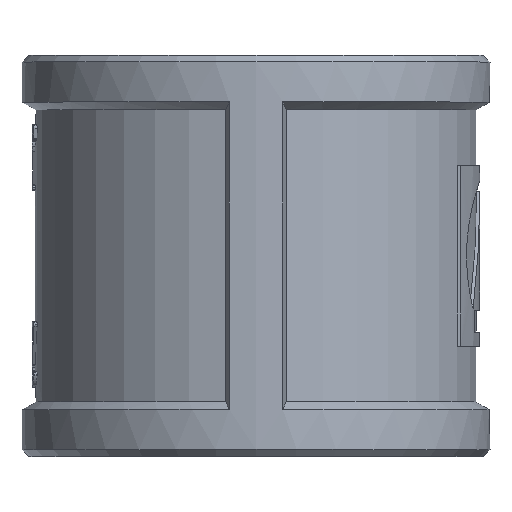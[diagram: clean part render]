
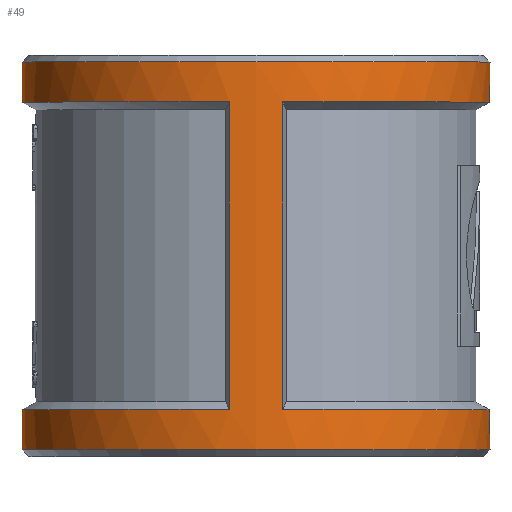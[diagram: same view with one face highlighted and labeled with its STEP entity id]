
A CAD part, top view. The second image highlights one B-rep face of the part: STEP entity #49.
In plain terms, the highlighted cylindrical face has radius 35 mm (diameter 70 mm), a full revolution.
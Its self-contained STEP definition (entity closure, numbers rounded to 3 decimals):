
#49=ADVANCED_FACE('',(#239,#241,#243,#245),#247,.T.);
#239=FACE_BOUND('',#240,.T.);
#240=EDGE_LOOP('',(#1214,#1215,#1216,#1217,#1218,#1219));
#241=FACE_OUTER_BOUND('',#242,.T.);
#242=EDGE_LOOP('',(#1220));
#243=FACE_OUTER_BOUND('',#244,.T.);
#244=EDGE_LOOP('',(#1221));
#245=FACE_BOUND('',#246,.T.);
#246=EDGE_LOOP('',(#1222,#1223,#1224,#1225));
#247=CYLINDRICAL_SURFACE('',#248,35.);
#248=AXIS2_PLACEMENT_3D('',#249,#250,#251);
#249=CARTESIAN_POINT('',(0.,-23.,0.));
#250=DIRECTION('',(0.,1.,0.));
#251=DIRECTION('',(-1.,0.,0.));
#1214=ORIENTED_EDGE('',*,*,#2252,.F.);
#1215=ORIENTED_EDGE('',*,*,#2253,.F.);
#1216=ORIENTED_EDGE('',*,*,#2254,.F.);
#1217=ORIENTED_EDGE('',*,*,#2255,.T.);
#1218=ORIENTED_EDGE('',*,*,#2256,.F.);
#1219=ORIENTED_EDGE('',*,*,#2257,.F.);
#1220=ORIENTED_EDGE('',*,*,#2250,.F.);
#1221=ORIENTED_EDGE('',*,*,#2251,.T.);
#1222=ORIENTED_EDGE('',*,*,#2258,.F.);
#1223=ORIENTED_EDGE('',*,*,#2259,.T.);
#1224=ORIENTED_EDGE('',*,*,#2260,.F.);
#1225=ORIENTED_EDGE('',*,*,#2261,.F.);
#2250=EDGE_CURVE('',#2659,#2659,#2660,.T.);
#2251=EDGE_CURVE('',#2661,#2661,#2662,.T.);
#2252=EDGE_CURVE('',#2663,#2664,#2665,.T.);
#2253=EDGE_CURVE('',#2666,#2663,#2667,.T.);
#2254=EDGE_CURVE('',#2668,#2666,#2669,.T.);
#2255=EDGE_CURVE('',#2668,#2670,#2671,.T.);
#2256=EDGE_CURVE('',#2672,#2670,#2673,.F.);
#2257=EDGE_CURVE('',#2664,#2672,#2674,.F.);
#2258=EDGE_CURVE('',#2675,#2676,#2677,.T.);
#2259=EDGE_CURVE('',#2675,#2678,#2679,.T.);
#2260=EDGE_CURVE('',#2680,#2678,#2681,.F.);
#2261=EDGE_CURVE('',#2676,#2680,#2682,.T.);
#2659=VERTEX_POINT('',#3352);
#2660=CIRCLE('',#3353,35.);
#2661=VERTEX_POINT('',#3357);
#2662=CIRCLE('',#3358,35.);
#2663=VERTEX_POINT('',#3362);
#2664=VERTEX_POINT('',#3363);
#2665=LINE('',#3364,#3365);
#2666=VERTEX_POINT('',#3367);
#2667=CIRCLE('',#3368,35.);
#2668=VERTEX_POINT('',#3372);
#2669=CIRCLE('',#3373,35.);
#2670=VERTEX_POINT('',#3377);
#2671=LINE('',#3378,#3379);
#2672=VERTEX_POINT('',#3381);
#2673=CIRCLE('',#3382,35.);
#2674=CIRCLE('',#3386,35.);
#2675=VERTEX_POINT('',#3390);
#2676=VERTEX_POINT('',#3391);
#2677=CIRCLE('',#3392,35.);
#2678=VERTEX_POINT('',#3396);
#2679=LINE('',#3397,#3398);
#2680=VERTEX_POINT('',#3400);
#2681=CIRCLE('',#3401,35.);
#2682=LINE('',#3405,#3406);
#3352=CARTESIAN_POINT('',(-35.,29.,0.));
#3353=AXIS2_PLACEMENT_3D('',#3354,#3355,#3356);
#3354=CARTESIAN_POINT('',(0.,29.,0.));
#3355=DIRECTION('',(0.,1.,0.));
#3356=DIRECTION('',(-1.,0.,0.));
#3357=CARTESIAN_POINT('',(-35.,-29.,0.));
#3358=AXIS2_PLACEMENT_3D('',#3359,#3360,#3361);
#3359=CARTESIAN_POINT('',(0.,-29.,0.));
#3360=DIRECTION('',(0.,1.,0.));
#3361=DIRECTION('',(-1.,0.,0.));
#3362=CARTESIAN_POINT('',(-4.,-23.,34.771));
#3363=CARTESIAN_POINT('',(-4.,23.,34.771));
#3364=CARTESIAN_POINT('',(-4.,-23.,34.771));
#3365=VECTOR('',#3366,1.);
#3366=DIRECTION('',(0.,1.,0.));
#3367=CARTESIAN_POINT('',(-35.,-23.,0.));
#3368=AXIS2_PLACEMENT_3D('',#3369,#3370,#3371);
#3369=CARTESIAN_POINT('',(0.,-23.,0.));
#3370=DIRECTION('',(0.,1.,0.));
#3371=DIRECTION('',(-1.,0.,0.));
#3372=CARTESIAN_POINT('',(-4.,-23.,-34.771));
#3373=AXIS2_PLACEMENT_3D('',#3374,#3375,#3376);
#3374=CARTESIAN_POINT('',(0.,-23.,0.));
#3375=DIRECTION('',(0.,1.,0.));
#3376=DIRECTION('',(-0.114,0.,-0.993));
#3377=CARTESIAN_POINT('',(-4.,23.,-34.771));
#3378=CARTESIAN_POINT('',(-4.,-23.,-34.771));
#3379=VECTOR('',#3380,1.);
#3380=DIRECTION('',(0.,1.,0.));
#3381=CARTESIAN_POINT('',(-35.,23.,0.));
#3382=AXIS2_PLACEMENT_3D('',#3383,#3384,#3385);
#3383=CARTESIAN_POINT('',(0.,23.,0.));
#3384=DIRECTION('',(0.,1.,0.));
#3385=DIRECTION('',(-0.114,0.,-0.993));
#3386=AXIS2_PLACEMENT_3D('',#3387,#3388,#3389);
#3387=CARTESIAN_POINT('',(0.,23.,0.));
#3388=DIRECTION('',(0.,1.,0.));
#3389=DIRECTION('',(-1.,0.,0.));
#3390=CARTESIAN_POINT('',(4.,-23.,34.771));
#3391=CARTESIAN_POINT('',(4.,-23.,-34.771));
#3392=AXIS2_PLACEMENT_3D('',#3393,#3394,#3395);
#3393=CARTESIAN_POINT('',(0.,-23.,0.));
#3394=DIRECTION('',(0.,1.,0.));
#3395=DIRECTION('',(0.114,0.,0.993));
#3396=CARTESIAN_POINT('',(4.,23.,34.771));
#3397=CARTESIAN_POINT('',(4.,-23.,34.771));
#3398=VECTOR('',#3399,1.);
#3399=DIRECTION('',(0.,1.,0.));
#3400=CARTESIAN_POINT('',(4.,23.,-34.771));
#3401=AXIS2_PLACEMENT_3D('',#3402,#3403,#3404);
#3402=CARTESIAN_POINT('',(0.,23.,0.));
#3403=DIRECTION('',(0.,1.,0.));
#3404=DIRECTION('',(0.114,0.,0.993));
#3405=CARTESIAN_POINT('',(4.,-23.,-34.771));
#3406=VECTOR('',#3407,1.);
#3407=DIRECTION('',(0.,1.,0.));
